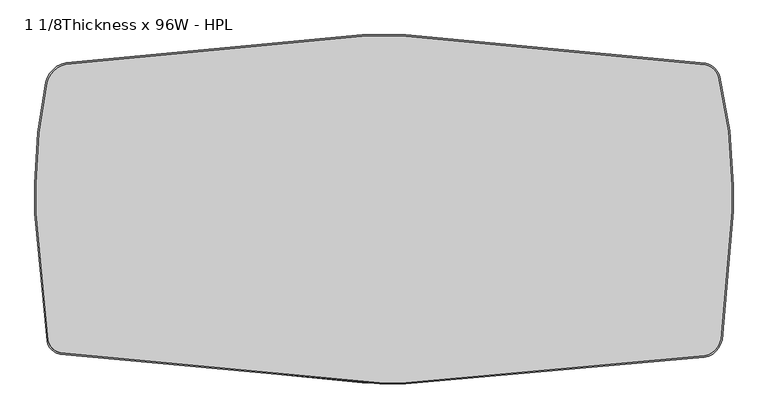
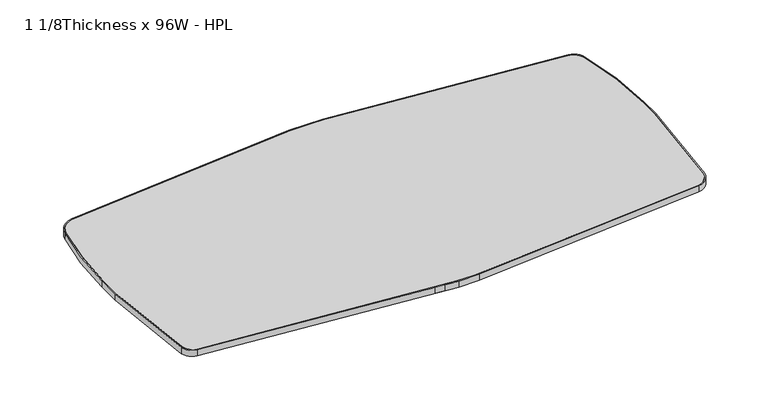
"""IFC4 building model written with IfcOpenShell, lengths in millimetres: furniture geometry, Steelcase - Groupwork - Table - Conference Table Top - Boat Shaped : 1 1/8Thickness x 96W - HPL."""

from ifc_helpers import new_model, si_unit, point, frame, frame_2d, origin, place, context, project, spatial, polyline, circle_curve, trimmed, segment, composite_curve, outline, extrude, source, transform, mapped, element, save


def furniture_1_1_8thickness_x_96w_hpl_99a8e3d7(model_context):
    return source(origin(), model_context, "Body", "SweptSolid", [
        extrude(outline(composite_curve([segment(polyline([(1143.0, 1219.2), (1295.4, 1219.2)]), True, "CONTINUOUS"), segment(trimmed(circle_curve(frame_2d((1295.4, -4333.0645975)), 5552.2645975), [point((1295.4, 1219.2))], [point((2342.0831072, 1119.6500139))], False, "CARTESIAN"), True, "CONTINUOUS"), segment(trimmed(circle_curve(frame_2d((2330.1124281, 1057.2885447)), 63.5), [point((2342.0831072, 1119.6500139))], [point((2391.7300018, 1072.635356))], False, "CARTESIAN"), True, "CONTINUOUS"), segment(trimmed(circle_curve(frame_2d((864.0781604, 692.15)), 1574.3218396), [point((2391.7300018, 1072.635356))], [point((2438.4, 692.15))], False, "CARTESIAN"), True, "CONTINUOUS"), segment(polyline([(2438.4, 692.15), (2438.4, 603.25)]), True, "CONTINUOUS"), segment(trimmed(circle_curve(frame_2d((-174.7531989, 603.25)), 2613.1531989), [point((2438.4, 603.25))], [point((2399.6973149, 155.1716667))], False, "CARTESIAN"), True, "CONTINUOUS"), segment(trimmed(circle_curve(frame_2d((2324.6258919, 168.2377086)), 76.2), [point((2399.6973149, 155.1716667))], [point((2338.1460247, 93.2467357))], False, "CARTESIAN"), True, "CONTINUOUS"), segment(trimmed(circle_curve(frame_2d((1295.4, 5876.9576085)), 5876.9576085), [point((2338.1460247, 93.2467357))], [point((1295.4, 0.0))], False, "CARTESIAN"), True, "CONTINUOUS"), segment(polyline([(1295.4, 0.0), (1203.5382137, 0.0)]), True, "CONTINUOUS"), segment(trimmed(circle_curve(frame_2d((1203.5382137, 6007.8214805)), 6007.8214805), [point((1203.5382137, 0.0))], [point((87.8398792, 104.5057878))], False, "CARTESIAN"), True, "CONTINUOUS"), segment(trimmed(circle_curve(frame_2d((98.4530707, 160.6616661)), 57.15), [point((87.8398792, 104.5057878))], [point((42.3185883, 149.9358847))], False, "CARTESIAN"), True, "CONTINUOUS"), segment(trimmed(circle_curve(frame_2d((2381.5513607, 596.9)), 2381.5513607), [point((42.3185883, 149.9358847))], [point((0.0, 596.9))], False, "CARTESIAN"), True, "CONTINUOUS"), segment(polyline([(0.0, 596.9), (0.0, 698.5)]), True, "CONTINUOUS"), segment(trimmed(circle_curve(frame_2d((1661.1239321, 698.5)), 1661.1239321), [point((0.0, 698.5))], [point((38.3809134, 1053.5180462))], False, "CARTESIAN"), True, "CONTINUOUS"), segment(trimmed(circle_curve(frame_2d((125.2268444, 1034.5181969)), 88.9), [point((38.3809134, 1053.5180462))], [point((108.6411232, 1121.8573282))], False, "CARTESIAN"), True, "CONTINUOUS"), segment(trimmed(circle_curve(frame_2d((1143.0, -4324.9969173)), 5544.1969173), [point((108.6411232, 1121.8573282))], [point((1143.0, 1219.2))], False, "CARTESIAN"), True, "CONTINUOUS")], self_intersect=False), holes=[composite_curve([segment(trimmed(circle_curve(frame_2d((2330.1124281, 1057.2885447)), 58.42), [point((2386.8005959, 1071.4076111))], [point((2341.1254528, 1114.6610964))], True, "CARTESIAN"), True, "CONTINUOUS"), segment(trimmed(circle_curve(frame_2d((1295.4, -4333.0645975)), 5547.1845975), [point((2341.1254528, 1114.6610964))], [point((1295.4, 1214.12))], True, "CARTESIAN"), True, "CONTINUOUS"), segment(polyline([(1295.4, 1214.12), (1143.0, 1214.12)]), True, "CONTINUOUS"), segment(trimmed(circle_curve(frame_2d((1143.0, -4324.9969173)), 5539.1169173), [point((1143.0, 1214.12))], [point((109.5888787, 1116.8665207))], True, "CARTESIAN"), True, "CONTINUOUS"), segment(trimmed(circle_curve(frame_2d((125.2268444, 1034.5181969)), 83.82), [point((109.5888787, 1116.8665207))], [point((43.343538, 1052.4323405))], True, "CARTESIAN"), True, "CONTINUOUS"), segment(trimmed(circle_curve(frame_2d((1661.1239321, 698.5)), 1656.0439321), [point((43.343538, 1052.4323405))], [point((5.08, 698.5))], True, "CARTESIAN"), True, "CONTINUOUS"), segment(polyline([(5.08, 698.5), (5.08, 596.9)]), True, "CONTINUOUS"), segment(trimmed(circle_curve(frame_2d((2381.5513607, 596.9)), 2376.4713607), [point((5.08, 596.9))], [point((47.3083201, 150.8892875))], True, "CARTESIAN"), True, "CONTINUOUS"), segment(trimmed(circle_curve(frame_2d((98.4530707, 160.6616661)), 52.07), [point((47.3083201, 150.8892875))], [point((88.783274, 109.4974214))], True, "CARTESIAN"), True, "CONTINUOUS"), segment(trimmed(circle_curve(frame_2d((1203.5382137, 6007.8214805)), 6002.7414805), [point((88.783274, 109.4974214))], [point((1203.5382137, 5.08))], True, "CARTESIAN"), True, "CONTINUOUS"), segment(polyline([(1203.5382137, 5.08), (1295.4, 5.08)]), True, "CONTINUOUS"), segment(trimmed(circle_curve(frame_2d((1295.4, 5876.9576085)), 5871.8776085), [point((1295.4, 5.08))], [point((2337.2446825, 98.2461339))], True, "CARTESIAN"), True, "CONTINUOUS"), segment(trimmed(circle_curve(frame_2d((2324.6258919, 168.2377086)), 71.12), [point((2337.2446825, 98.2461339))], [point((2394.6925534, 156.0427362))], True, "CARTESIAN"), True, "CONTINUOUS"), segment(trimmed(circle_curve(frame_2d((-174.7531989, 603.25)), 2608.0731989), [point((2394.6925534, 156.0427362))], [point((2433.32, 603.25))], True, "CARTESIAN"), True, "CONTINUOUS"), segment(polyline([(2433.32, 603.25), (2433.32, 692.15)]), True, "CONTINUOUS"), segment(trimmed(circle_curve(frame_2d((864.0781604, 692.15)), 1569.2418396), [point((2433.32, 692.15))], [point((2386.8005959, 1071.4076111))], True, "CARTESIAN"), True, "CONTINUOUS")], self_intersect=False)]), frame((0.0, 0.0, 694.944), z_axis=(0.0, 0.0, 1.0), x_axis=(1.0, 0.0, 0.0)), (0.0, 0.0, 1.0), 28.702),
        extrude(outline(composite_curve([segment(polyline([(1143.0, 1214.12), (1295.4, 1214.12)]), True, "CONTINUOUS"), segment(trimmed(circle_curve(frame_2d((1295.4, -4333.0645975)), 5547.1845975), [point((1295.4, 1214.12))], [point((2341.1254528, 1114.6610964))], False, "CARTESIAN"), True, "CONTINUOUS"), segment(trimmed(circle_curve(frame_2d((2330.1124281, 1057.2885447)), 58.42), [point((2341.1254528, 1114.6610964))], [point((2386.8005959, 1071.4076111))], False, "CARTESIAN"), True, "CONTINUOUS"), segment(trimmed(circle_curve(frame_2d((864.0781604, 692.15)), 1569.2418396), [point((2386.8005959, 1071.4076111))], [point((2433.32, 692.15))], False, "CARTESIAN"), True, "CONTINUOUS"), segment(polyline([(2433.32, 692.15), (2433.32, 603.25)]), True, "CONTINUOUS"), segment(trimmed(circle_curve(frame_2d((-174.7531989, 603.25)), 2608.0731989), [point((2433.32, 603.25))], [point((2394.6925534, 156.0427362))], False, "CARTESIAN"), True, "CONTINUOUS"), segment(trimmed(circle_curve(frame_2d((2324.6258919, 168.2377086)), 71.12), [point((2394.6925534, 156.0427362))], [point((2337.2446825, 98.2461339))], False, "CARTESIAN"), True, "CONTINUOUS"), segment(trimmed(circle_curve(frame_2d((1295.4, 5876.9576085)), 5871.8776085), [point((2337.2446825, 98.2461339))], [point((1295.4, 5.08))], False, "CARTESIAN"), True, "CONTINUOUS"), segment(polyline([(1295.4, 5.08), (1143.0, 5.08)]), True, "CONTINUOUS"), segment(trimmed(circle_curve(frame_2d((1143.0, 5379.0678276)), 5373.9878276), [point((1143.0, 5.08))], [point((89.5417536, 109.3457387))], False, "CARTESIAN"), True, "CONTINUOUS"), segment(trimmed(circle_curve(frame_2d((100.1340058, 162.3314413)), 54.0340678), [point((89.5417536, 109.3457387))], [point((47.0543122, 152.220724))], False, "CARTESIAN"), True, "CONTINUOUS"), segment(trimmed(circle_curve(frame_2d((2381.5513607, 596.9)), 2376.4713607), [point((47.0543122, 152.220724))], [point((5.08, 596.9))], False, "CARTESIAN"), True, "CONTINUOUS"), segment(polyline([(5.08, 596.9), (5.08, 698.5)]), True, "CONTINUOUS"), segment(trimmed(circle_curve(frame_2d((1661.1239321, 698.5)), 1656.0439321), [point((5.08, 698.5))], [point((43.343538, 1052.4323405))], False, "CARTESIAN"), True, "CONTINUOUS"), segment(trimmed(circle_curve(frame_2d((125.2268444, 1034.5181969)), 83.82), [point((43.343538, 1052.4323405))], [point((109.5888787, 1116.8665207))], False, "CARTESIAN"), True, "CONTINUOUS"), segment(trimmed(circle_curve(frame_2d((1143.0, -4324.9969173)), 5539.1169173), [point((109.5888787, 1116.8665207))], [point((1143.0, 1214.12))], False, "CARTESIAN"), True, "CONTINUOUS")], self_intersect=False)), frame((0.0, 0.0, 694.944), z_axis=(0.0, 0.0, 1.0), x_axis=(1.0, 0.0, 0.0)), (0.0, 0.0, 1.0), 28.702),
    ])


if __name__ == "__main__":
    model = new_model("IFC4")
    model_context = context("Model", 3, world=origin())
    ifc_project = project(units=[si_unit("LENGTHUNIT", "METRE", prefix="MILLI")], contexts=[model_context])
    site = spatial("IfcSite", under=ifc_project)
    building = spatial("IfcBuilding", under=site)
    placement = place(None, origin())
    furniture_1_1_8thickness_x_96w_hpl_shape = furniture_1_1_8thickness_x_96w_hpl_99a8e3d7(model_context)
    element("IfcFurniture", 1, ObjectType="Steelcase - Groupwork - Table - Conference Table Top - Boat Shaped : 1 1/8Thickness x 96W - HPL", at=placement, inside=building, context=model_context, shape_type="MappedRepresentation", body=[
        mapped(furniture_1_1_8thickness_x_96w_hpl_shape, transform((0.0, 0.0, 0.0), x_axis=(1.0, 0.0, 0.0), y_axis=(0.0, 1.0, 0.0), z_axis=(0.0, 0.0, 1.0))),
    ])
    save(model, "model.ifc")
